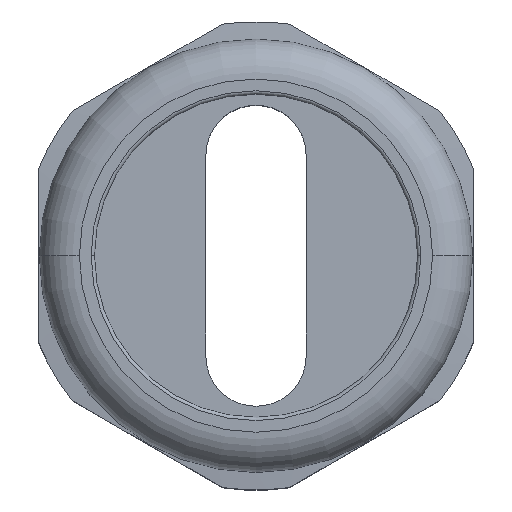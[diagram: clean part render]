
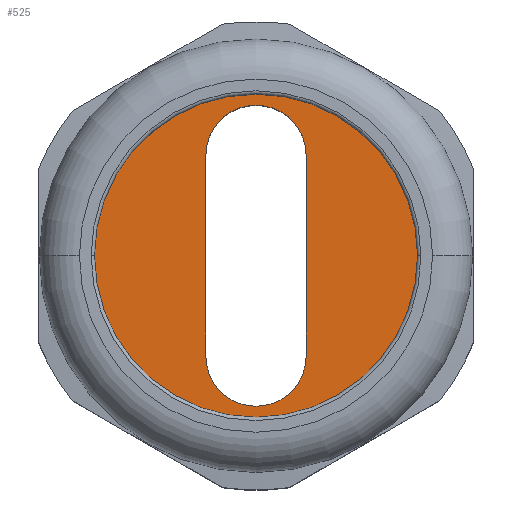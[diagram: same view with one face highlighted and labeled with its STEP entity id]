
A CAD part, top view. The second image highlights one B-rep face of the part: STEP entity #525.
In plain terms, the highlighted planar face has unit normal (0, 0, 1).
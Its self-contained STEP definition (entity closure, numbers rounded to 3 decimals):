
#313 = VERTEX_POINT ( 'NONE', #1461 ) ;
#316 = VERTEX_POINT ( 'NONE', #1515 ) ;
#324 = EDGE_CURVE ( 'NONE', #316, #313, #1495, .T. ) ;
#468 = EDGE_CURVE ( 'NONE', #541, #530, #1778, .T. ) ;
#469 = ORIENTED_EDGE ( 'NONE', *, *, #543, .F. ) ;
#524 = EDGE_CURVE ( 'NONE', #313, #316, #1907, .T. ) ;
#525 = ADVANCED_FACE ( 'NONE', ( #1902, #1901 ), #1900, .T. ) ;
#528 = EDGE_LOOP ( 'NONE', ( #547, #469, #532, #536 ) ) ;
#530 = VERTEX_POINT ( 'NONE', #1895 ) ;
#532 = ORIENTED_EDGE ( 'NONE', *, *, #533, .F. ) ;
#533 = EDGE_CURVE ( 'NONE', #534, #544, #1894, .T. ) ;
#534 = VERTEX_POINT ( 'NONE', #1889 ) ;
#536 = ORIENTED_EDGE ( 'NONE', *, *, #537, .F. ) ;
#537 = EDGE_CURVE ( 'NONE', #530, #534, #1888, .T. ) ;
#538 = EDGE_LOOP ( 'NONE', ( #539, #540 ) ) ;
#539 = ORIENTED_EDGE ( 'NONE', *, *, #524, .F. ) ;
#540 = ORIENTED_EDGE ( 'NONE', *, *, #324, .F. ) ;
#541 = VERTEX_POINT ( 'NONE', #1884 ) ;
#543 = EDGE_CURVE ( 'NONE', #544, #541, #1948, .T. ) ;
#544 = VERTEX_POINT ( 'NONE', #1944 ) ;
#547 = ORIENTED_EDGE ( 'NONE', *, *, #468, .F. ) ;
#1461 = CARTESIAN_POINT ( 'NONE',  ( -24.15, 0., 46. ) ) ;
#1491 = DIRECTION ( 'NONE',  ( -1., 0., 0. ) ) ;
#1492 = DIRECTION ( 'NONE',  ( 0., 0., -1. ) ) ;
#1493 = CARTESIAN_POINT ( 'NONE',  ( 0., 0., 46. ) ) ;
#1494 = AXIS2_PLACEMENT_3D ( 'NONE', #1493, #1492, #1491 ) ;
#1495 = CIRCLE ( 'NONE', #1494, 24.15 ) ;
#1515 = CARTESIAN_POINT ( 'NONE',  ( 24.15, 0., 46. ) ) ;
#1774 = DIRECTION ( 'NONE',  ( 1., 0., 0. ) ) ;
#1775 = DIRECTION ( 'NONE',  ( 0., 0., 1. ) ) ;
#1776 = CARTESIAN_POINT ( 'NONE',  ( 0., -15., 46. ) ) ;
#1777 = AXIS2_PLACEMENT_3D ( 'NONE', #1776, #1775, #1774 ) ;
#1778 = CIRCLE ( 'NONE', #1777, 7.5 ) ;
#1884 = CARTESIAN_POINT ( 'NONE',  ( -7.5, -15., 46. ) ) ;
#1885 = DIRECTION ( 'NONE',  ( 0., 1., 0. ) ) ;
#1886 = VECTOR ( 'NONE', #1885, 1000. ) ;
#1887 = CARTESIAN_POINT ( 'NONE',  ( 7.5, 15., 46. ) ) ;
#1888 = LINE ( 'NONE', #1887, #1886 ) ;
#1889 = CARTESIAN_POINT ( 'NONE',  ( 7.5, 15., 46. ) ) ;
#1890 = DIRECTION ( 'NONE',  ( -1., 0., 0. ) ) ;
#1891 = DIRECTION ( 'NONE',  ( 0., 0., 1. ) ) ;
#1892 = CARTESIAN_POINT ( 'NONE',  ( 0., 15., 46. ) ) ;
#1893 = AXIS2_PLACEMENT_3D ( 'NONE', #1892, #1891, #1890 ) ;
#1894 = CIRCLE ( 'NONE', #1893, 7.5 ) ;
#1895 = CARTESIAN_POINT ( 'NONE',  ( 7.5, -15., 46. ) ) ;
#1896 = DIRECTION ( 'NONE',  ( 1., 0., 0. ) ) ;
#1897 = DIRECTION ( 'NONE',  ( 0., 0., 1. ) ) ;
#1898 = CARTESIAN_POINT ( 'NONE',  ( 0., 24.15, 46. ) ) ;
#1899 = AXIS2_PLACEMENT_3D ( 'NONE', #1898, #1897, #1896 ) ;
#1900 = PLANE ( 'NONE',  #1899 ) ;
#1901 = FACE_OUTER_BOUND ( 'NONE', #538, .T. ) ;
#1902 = FACE_BOUND ( 'NONE', #528, .T. ) ;
#1903 = DIRECTION ( 'NONE',  ( -1., 0., 0. ) ) ;
#1904 = DIRECTION ( 'NONE',  ( 0., 0., -1. ) ) ;
#1905 = CARTESIAN_POINT ( 'NONE',  ( 0., 0., 46. ) ) ;
#1906 = AXIS2_PLACEMENT_3D ( 'NONE', #1905, #1904, #1903 ) ;
#1907 = CIRCLE ( 'NONE', #1906, 24.15 ) ;
#1944 = CARTESIAN_POINT ( 'NONE',  ( -7.5, 15., 46. ) ) ;
#1945 = DIRECTION ( 'NONE',  ( 0., -1., 0. ) ) ;
#1946 = VECTOR ( 'NONE', #1945, 1000. ) ;
#1947 = CARTESIAN_POINT ( 'NONE',  ( -7.5, -15., 46. ) ) ;
#1948 = LINE ( 'NONE', #1947, #1946 ) ;
